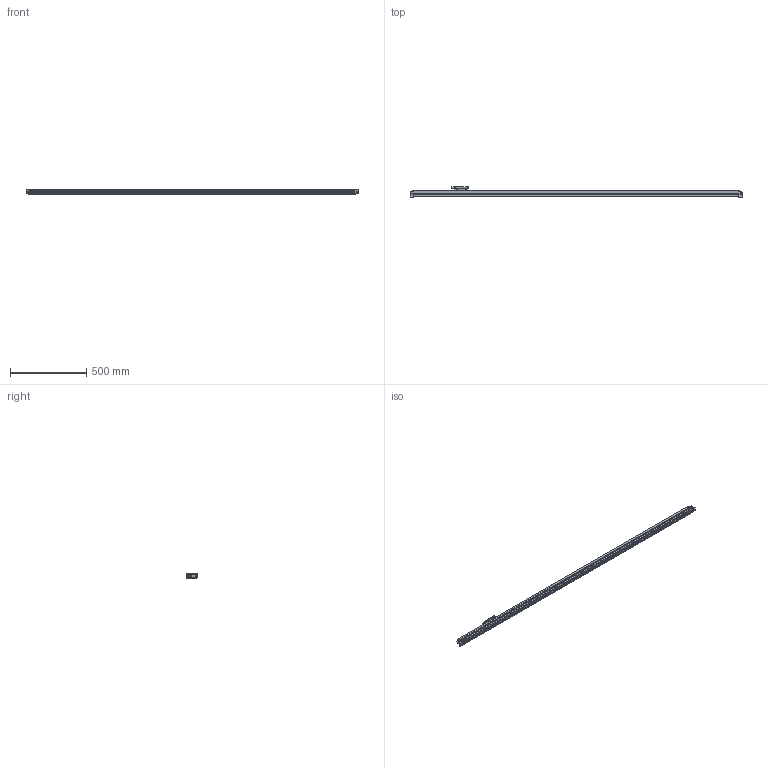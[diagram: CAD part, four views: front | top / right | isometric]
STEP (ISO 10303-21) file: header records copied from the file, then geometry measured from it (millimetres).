
FILE_DESCRIPTION (( 'STEP AP214' ), '1' );
FILE_NAME ('JCXE-L-2000.STEP', '2021-12-02T09:39:51', ( '微软用户' ), ( '微软中国' ), 'SwSTEP 2.0', 'SolidWorks 2010', '' );
FILE_SCHEMA (( 'AUTOMOTIVE_DESIGN' ));
Length unit declared in the file: millimetre
Products named in the file (7): JCXE-L-2000; 嫖掑喜旯L1200; MSBR-2_1-1; MSBR-3_1-1; MSBR-4_1-1; PRT0002; MSBR-5_1-1
Assembly tree (6 placements, depth 2):
  JCXE-L-2000
    PRT0002
    嫖掑喜旯L1200
    MSBR-4_1-1
    MSBR-2_1-1
    MSBR-3_1-1
    MSBR-5_1-1
Bounding box: 2174 x 66.8 x 29.5 mm (x, y, z)
Volume: 1022119.7 mm3; surface area: 657170 mm2
Topology: 6 solids, 6 shells, 547 faces, 1493 edges, 984 vertices
Faces by surface type: plane 331, cylinder 161, cone 27, bspline 25, sphere 3
Entity records: 18988 total; most frequent: CARTESIAN_POINT 4706, ORIENTED_EDGE 2978, DIRECTION 2838, EDGE_CURVE 1489, LINE 1018, VECTOR 1018, VERTEX_POINT 982, AXIS2_PLACEMENT_3D 910
